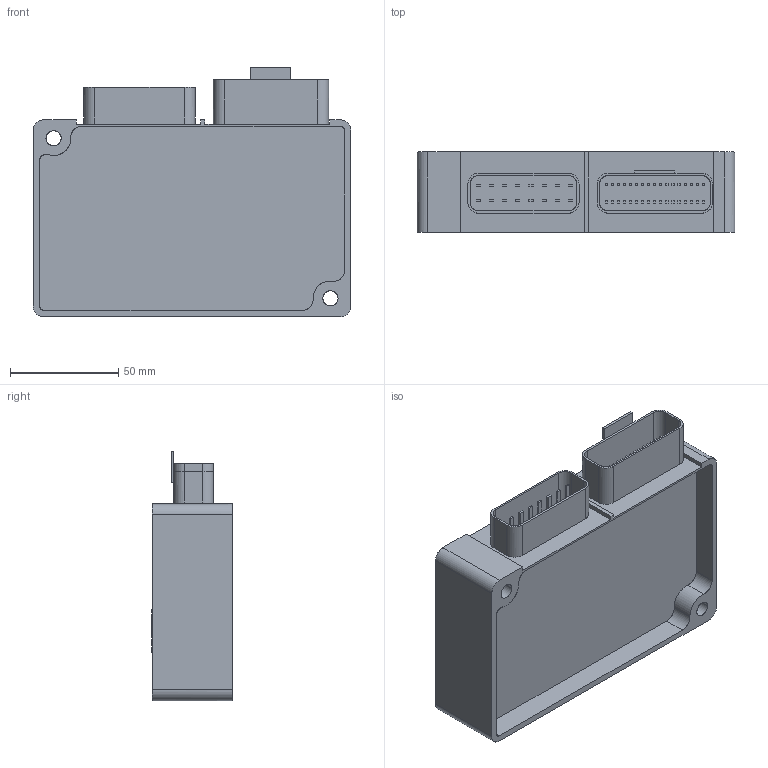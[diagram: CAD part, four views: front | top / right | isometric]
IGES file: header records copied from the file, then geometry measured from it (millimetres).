
Start section:  PTC IGES file: 164000-10000-1.igs
Global section: file name: C:\Documents and Settings\yy060262\; native system: Rhinoceros ( Aug  7 2001 ); preprocessor: Trout Lake IGES 012 Aug  7 2001; date: 120406.053121; units: millimetre
Bounding box: 147 x 37.25 x 115.3 mm (x, y, z)
Surface area: 64950.3 mm2 (no closed solid volume)
Topology: 0 solids, 0 shells, 1247 faces, 13413 edges, 17160 vertices
Faces by surface type: bspline 1247
